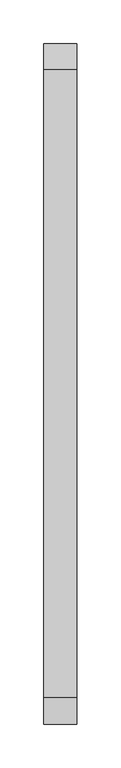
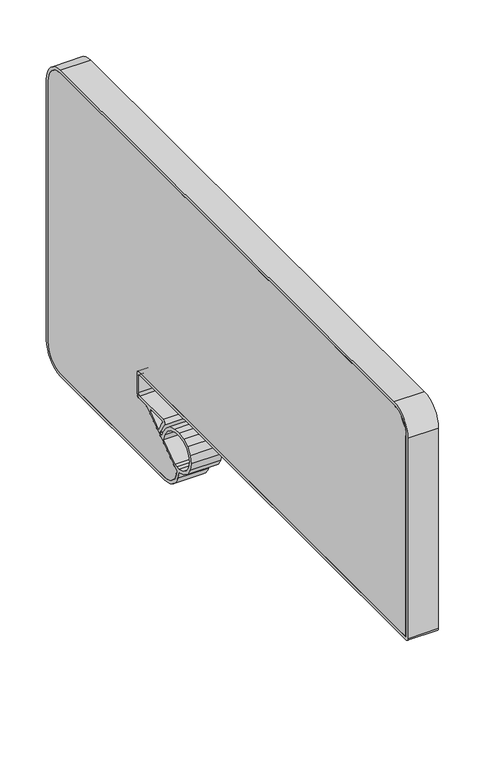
"""IFC4 building model written with IfcOpenShell, lengths in millimetres: furniture geometry, Vitra-Joyn_2-Accesories_rfa : Joyn 2 Platform - Side screen, solo."""

from ifc_helpers import new_model, si_unit, point, frame, frame_2d, origin, place, context, project, spatial, polyline, circle_curve, trimmed, segment, composite_curve, outline, extrude, source, transform, mapped, element, save


def furniture_81d2e026(model_context):
    return source(origin(), model_context, "Body", "SweptSolid", [
        extrude(outline(composite_curve([segment(polyline([(304.438008, 1033.00691), (1022.440688, 1033.00691)]), True, "CONTINUOUS"), segment(trimmed(circle_curve(frame_2d((1022.440688, 1007.00691)), 26.0), [point((1022.440688, 1033.00691))], [point((1048.440688, 1007.00691))], False, "CARTESIAN"), True, "CONTINUOUS"), segment(polyline([(1048.440688, 1007.00691), (1048.440688, 664.98652)]), True, "CONTINUOUS"), segment(trimmed(circle_curve(frame_2d((1022.440688, 664.98652)), 26.0), [point((1048.440688, 664.98652))], [point((1022.440688, 638.98652))], False, "CARTESIAN"), True, "CONTINUOUS"), segment(polyline([(1022.440688, 638.98652), (797.6774764, 638.98652)]), True, "CONTINUOUS"), segment(trimmed(circle_curve(frame_2d((797.6774764, 665.1686456)), 26.1821256), [point((797.6774764, 638.98652))], [point((771.6733848, 662.1205445))], False, "CARTESIAN"), True, "CONTINUOUS"), segment(polyline([(771.6733848, 662.1205445), (837.7490284, 708.5), (852.0000768, 708.5)]), True, "CONTINUOUS"), segment(trimmed(circle_curve(frame_2d((852.0000768, 715.0)), 6.5), [point((852.0000768, 708.5))], [point((858.5000768, 715.0))], True, "CARTESIAN"), True, "CONTINUOUS"), segment(polyline([(858.5000768, 715.0), (858.5000768, 737.5002894)]), True, "CONTINUOUS"), segment(trimmed(circle_curve(frame_2d((852.0000768, 737.5002894)), 6.5), [point((858.5000768, 737.5002894))], [point((852.0000768, 744.0002894))], True, "CARTESIAN"), True, "CONTINUOUS"), segment(polyline([(852.0000768, 744.0002894), (278.438008, 744.0002894), (278.438008, 1007.00691)]), True, "CONTINUOUS"), segment(trimmed(circle_curve(frame_2d((304.438008, 1007.00691)), 26.0), [point((278.438008, 1007.00691))], [point((304.438008, 1033.00691))], False, "CARTESIAN"), True, "CONTINUOUS")], self_intersect=False)), frame((-19.0, 0.0, 0.0), z_axis=(1.0, 0.0, 0.0), x_axis=(0.0, 1.0, 0.0)), (0.0, 0.0, 1.0), 38.0),
        extrude(outline(composite_curve([segment(polyline([(274.438008, 744.0002894), (274.438008, 1007.00691)]), True, "CONTINUOUS"), segment(trimmed(circle_curve(frame_2d((304.438008, 1007.00691)), 30.0), [point((274.438008, 1007.00691))], [point((304.438008, 1037.00691))], False, "CARTESIAN"), True, "CONTINUOUS"), segment(polyline([(304.438008, 1037.00691), (1022.440688, 1037.00691)]), True, "CONTINUOUS"), segment(trimmed(circle_curve(frame_2d((1022.440688, 1007.00691)), 30.0), [point((1022.440688, 1037.00691))], [point((1052.440688, 1007.00691))], False, "CARTESIAN"), True, "CONTINUOUS"), segment(polyline([(1052.440688, 1007.00691), (1052.440688, 664.98652)]), True, "CONTINUOUS"), segment(trimmed(circle_curve(frame_2d((1022.440688, 664.98652)), 30.0), [point((1052.440688, 664.98652))], [point((1022.440688, 634.98652))], False, "CARTESIAN"), True, "CONTINUOUS"), segment(polyline([(1022.440688, 634.98652), (797.6774764, 634.98652)]), True, "CONTINUOUS"), segment(trimmed(circle_curve(frame_2d((797.6774764, 665.1686456)), 30.1821256), [point((797.6774764, 634.98652))], [point((769.374033, 654.68648))], False, "CARTESIAN"), True, "CONTINUOUS"), segment(polyline([(769.374033, 654.68648), (766.0871493, 663.5615666), (756.940923, 666.571188), (748.502728, 672.311559), (743.187678, 680.726132), (741.246608, 690.484562), (743.069538, 700.266619), (748.444508, 708.678315), (756.981111, 713.241365), (766.719843, 715.0), (776.41954, 715.0), (786.6638618, 711.6714181), (794.650393, 705.115306), (800.476099, 696.709743), (803.7351207, 689.4633361), (807.0632976, 691.7937507)]), True, "CONTINUOUS"), segment(trimmed(circle_curve(frame_2d((765.6595158, 678.1180127)), 43.603887), [point((807.0632976, 691.7937507))], [point((798.5846298, 706.7053495))], True, "CARTESIAN"), True, "CONTINUOUS"), segment(trimmed(circle_curve(frame_2d((801.2274653, 709.0)), 3.5), [point((798.5846298, 706.7053495))], [point((801.2274653, 712.5))], False, "CARTESIAN"), True, "CONTINUOUS"), segment(polyline([(801.2274653, 712.5), (852.0000768, 712.5)]), True, "CONTINUOUS"), segment(trimmed(circle_curve(frame_2d((852.0000768, 715.0)), 2.5), [point((852.0000768, 712.5))], [point((854.5000768, 715.0))], True, "CARTESIAN"), True, "CONTINUOUS"), segment(polyline([(854.5000768, 715.0), (854.5000768, 737.5002894)]), True, "CONTINUOUS"), segment(trimmed(circle_curve(frame_2d((852.0000768, 737.5002894)), 2.5), [point((854.5000768, 737.5002894))], [point((852.0000768, 740.0002894))], True, "CARTESIAN"), True, "CONTINUOUS"), segment(polyline([(852.0000768, 740.0002894), (278.438008, 740.0002894)]), True, "CONTINUOUS"), segment(trimmed(circle_curve(frame_2d((278.438008, 744.0002894)), 4.0), [point((278.438008, 740.0002894))], [point((274.438008, 744.0002894))], False, "CARTESIAN"), True, "CONTINUOUS")], self_intersect=False), holes=[polyline([(758.455683, 670.194316), (766.746612, 668.09927), (771.209808, 668.512387), (775.132395, 669.435492), (799.826408, 686.768579), (796.863471, 694.992504), (791.618238, 702.611651), (784.421373, 708.1564), (775.315629, 711.031199), (766.702333, 710.910785), (758.525577, 709.479623), (751.366128, 705.845311), (746.883208, 698.712254), (745.246618, 690.484562), (746.883208, 682.256866), (751.433158, 675.028825), (758.455683, 670.194316)]), composite_curve([segment(trimmed(circle_curve(frame_2d((1022.440688, 664.98652)), 26.0), [point((1022.440688, 638.98652))], [point((1048.440688, 664.98652))], True, "CARTESIAN"), True, "CONTINUOUS"), segment(polyline([(1048.440688, 664.98652), (1048.440688, 1007.00691)]), True, "CONTINUOUS"), segment(trimmed(circle_curve(frame_2d((1022.440688, 1007.00691)), 26.0), [point((1048.440688, 1007.00691))], [point((1022.440688, 1033.00691))], True, "CARTESIAN"), True, "CONTINUOUS"), segment(polyline([(1022.440688, 1033.00691), (304.438008, 1033.00691)]), True, "CONTINUOUS"), segment(trimmed(circle_curve(frame_2d((304.438008, 1007.00691)), 26.0), [point((304.438008, 1033.00691))], [point((278.438008, 1007.00691))], True, "CARTESIAN"), True, "CONTINUOUS"), segment(polyline([(278.438008, 1007.00691), (278.438008, 744.0002894), (852.0000768, 744.0002894)]), True, "CONTINUOUS"), segment(trimmed(circle_curve(frame_2d((852.0000768, 737.5002894)), 6.5), [point((852.0000768, 744.0002894))], [point((858.5000768, 737.5002894))], False, "CARTESIAN"), True, "CONTINUOUS"), segment(polyline([(858.5000768, 737.5002894), (858.5000768, 715.0)]), True, "CONTINUOUS"), segment(trimmed(circle_curve(frame_2d((852.0000768, 715.0)), 6.5), [point((858.5000768, 715.0))], [point((852.0000768, 708.5))], False, "CARTESIAN"), True, "CONTINUOUS"), segment(polyline([(852.0000768, 708.5), (837.7490284, 708.5), (771.6733848, 662.1205445)]), True, "CONTINUOUS"), segment(trimmed(circle_curve(frame_2d((797.6774764, 665.1686456)), 26.1821256), [point((771.6733848, 662.1205445))], [point((797.6774764, 638.98652))], True, "CARTESIAN"), True, "CONTINUOUS"), segment(polyline([(797.6774764, 638.98652), (1022.440688, 638.98652)]), True, "CONTINUOUS")], self_intersect=False), composite_curve([segment(polyline([(810.4734399, 694.1754801), (828.4020148, 706.7352426), (828.4020148, 708.5), (804.5778126, 708.5)]), True, "CONTINUOUS"), segment(trimmed(circle_curve(frame_2d((804.5778126, 707.4)), 1.1), [point((804.5778126, 708.5))], [point((803.6988247, 706.7386527))], True, "CARTESIAN"), True, "CONTINUOUS"), segment(trimmed(circle_curve(frame_2d((765.6595158, 678.1180127)), 47.603887), [point((803.6988247, 706.7386527))], [point((810.4734399, 694.1754801))], False, "CARTESIAN"), True, "CONTINUOUS")], self_intersect=False)]), frame((-19.0, 0.0, 0.0), z_axis=(1.0, 0.0, 0.0), x_axis=(0.0, 1.0, 0.0)), (0.0, 0.0, 1.0), 38.0),
    ])


if __name__ == "__main__":
    model = new_model("IFC4")
    model_context = context("Model", 3, world=origin())
    ifc_project = project(units=[si_unit("LENGTHUNIT", "METRE", prefix="MILLI")], contexts=[model_context])
    site = spatial("IfcSite", under=ifc_project)
    building = spatial("IfcBuilding", under=site)
    placement = place(None, origin())
    furniture_shape = furniture_81d2e026(model_context)
    element("IfcFurniture", 1, ObjectType="Vitra-Joyn_2-Accesories_rfa : Joyn 2 Platform - Side screen, solo", at=placement, inside=building, context=model_context, shape_type="MappedRepresentation", body=[
        mapped(furniture_shape, transform((0.0, 0.0, 0.0), x_axis=(1.0, 0.0, 0.0), y_axis=(0.0, 1.0, 0.0), z_axis=(0.0, 0.0, 1.0))),
    ])
    save(model, "model.ifc")
